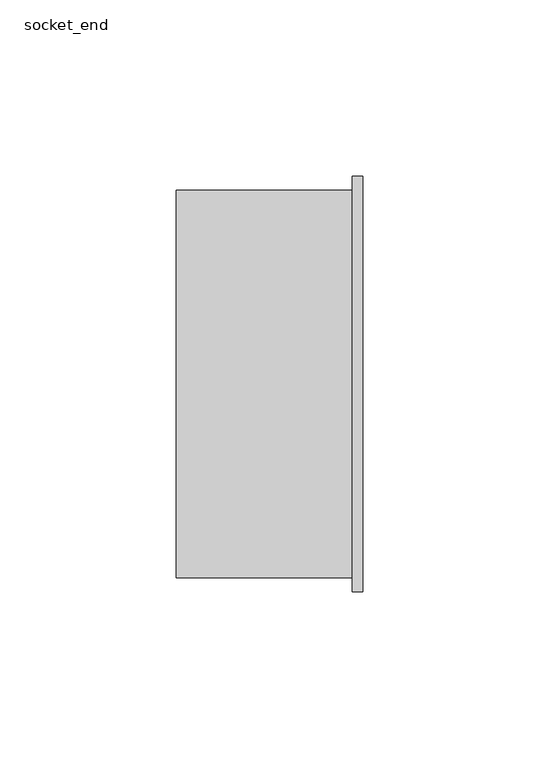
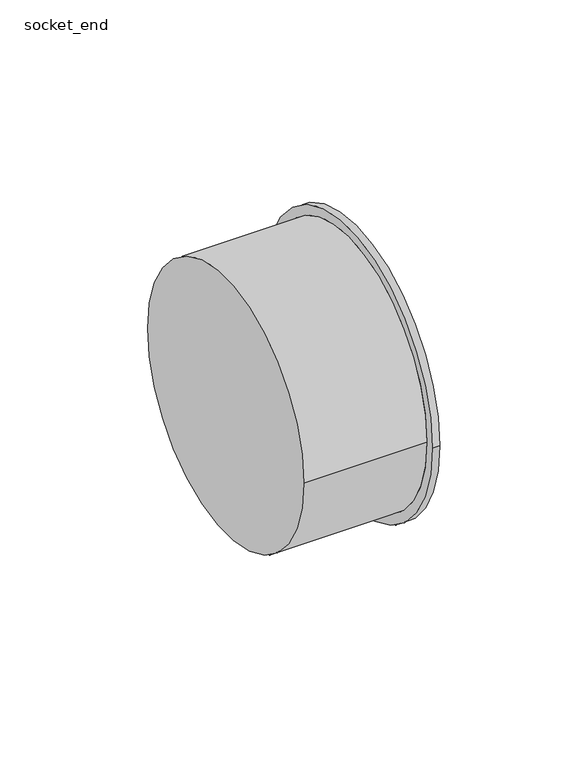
"""IFC4 building model written with IfcOpenShell, lengths in millimetres: pipe fitting geometry, PIF_UN_S&W PVC-HT Cap OR_Wavin : socket_end."""

from ifc_helpers import new_model, si_unit, frame, origin, place, context, project, spatial, circle_curve, source, transform, mapped, element, save
from ifc_brep_helpers import plane_surface, cylinder_surface, advanced_brep


def socket_end_ac9cdf55(model_context):
    return source(origin(), model_context, "Body", "AdvancedBrep", [
        advanced_brep(
        [(53.0, -59.0, 0.0), (53.0, 59.0, 0.0), (0.0, -55.0, 0.0), (0.0, 55.0, 0.0), (50.0, 55.0, 0.0), (50.0, -55.0, 0.0), (50.0, -59.0, 0.0), (50.0, 59.0, 0.0)],
        [
            (0, 1, circle_curve(frame((53.0, 0.0, 0.0), z_axis=(1.0, 0.0, 0.0), x_axis=(0.0, 1.0, 0.0)), 59.0)),
            (1, 0, circle_curve(frame((53.0, 0.0, 0.0), z_axis=(1.0, 0.0, 0.0), x_axis=(0.0, 1.0, 0.0)), 59.0)),
            (2, 3, circle_curve(frame((0.0, 0.0, 0.0), z_axis=(-1.0, 0.0, 0.0), x_axis=(0.0, 1.0, 0.0)), 55.0)),
            (3, 2, circle_curve(frame((0.0, 0.0, 0.0), z_axis=(-1.0, 0.0, 0.0), x_axis=(0.0, 1.0, 0.0)), 55.0)),
            (3, 4),
            (4, 5, circle_curve(frame((50.0, 0.0, 0.0), z_axis=(-1.0, 0.0, 0.0), x_axis=(0.0, 1.0, 0.0)), 55.0)),
            (5, 2),
            (5, 4, circle_curve(frame((50.0, 0.0, 0.0), z_axis=(-1.0, 0.0, 0.0), x_axis=(0.0, 1.0, 0.0)), 55.0)),
            (6, 7, circle_curve(frame((50.0, 0.0, 0.0), z_axis=(-1.0, 0.0, 0.0), x_axis=(0.0, 1.0, 0.0)), 59.0)),
            (7, 6, circle_curve(frame((50.0, 0.0, 0.0), z_axis=(-1.0, 0.0, 0.0), x_axis=(0.0, 1.0, 0.0)), 59.0)),
            (7, 1),
            (0, 6),
        ],
        [
            plane_surface(frame((53.0, 55.0, 0.0), z_axis=(1.0, 0.0, 0.0), x_axis=(0.0, 0.0, 1.0))),
            plane_surface(frame((0.0, 55.0, 0.0), z_axis=(-1.0, 0.0, 0.0), x_axis=(0.0, 0.0, -1.0))),
            cylinder_surface(frame((0.0, 0.0, 0.0), z_axis=(1.0, 0.0, 0.0), x_axis=(0.0, 1.0, 0.0)), 55.0),
            plane_surface(frame((50.0, 59.0, 0.0), z_axis=(-1.0, 0.0, 0.0), x_axis=(0.0, 0.0, -1.0))),
            cylinder_surface(frame((50.0, 0.0, 0.0), z_axis=(1.0, 0.0, 0.0), x_axis=(0.0, 1.0, 0.0)), 59.0),
        ],
        [
            (0, [[1, 2]]),
            (1, [[3, 4]]),
            (2, [[-4, 5, 6, 7]]),
            (2, [[-3, -7, 8, -5]]),
            (3, [[9, 10], [-6, -8]]),
            (4, [[-10, 11, -1, 12]]),
            (4, [[-9, -12, -2, -11]]),
        ],
    ),
    ])


if __name__ == "__main__":
    model = new_model("IFC4")
    model_context = context("Model", 3, world=origin())
    ifc_project = project(units=[si_unit("LENGTHUNIT", "METRE", prefix="MILLI")], contexts=[model_context])
    site = spatial("IfcSite", under=ifc_project)
    building = spatial("IfcBuilding", under=site)
    placement = place(None, origin())
    socket_end_shape = socket_end_ac9cdf55(model_context)
    element("IfcPipeFitting", 1, ObjectType="PIF_UN_S&W PVC-HT Cap OR_Wavin : socket_end", at=placement, inside=building, context=model_context, shape_type="MappedRepresentation", body=[
        mapped(socket_end_shape, transform((0.0, 0.0, 0.0), x_axis=(1.0, 0.0, 0.0), y_axis=(0.0, 1.0, 0.0), z_axis=(0.0, 0.0, 1.0))),
    ])
    save(model, "model.ifc")
